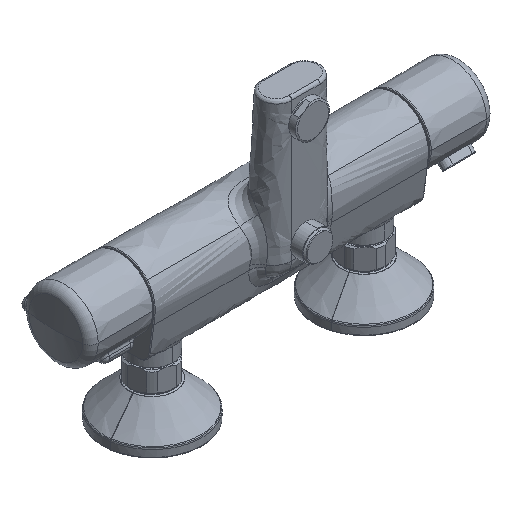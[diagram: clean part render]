
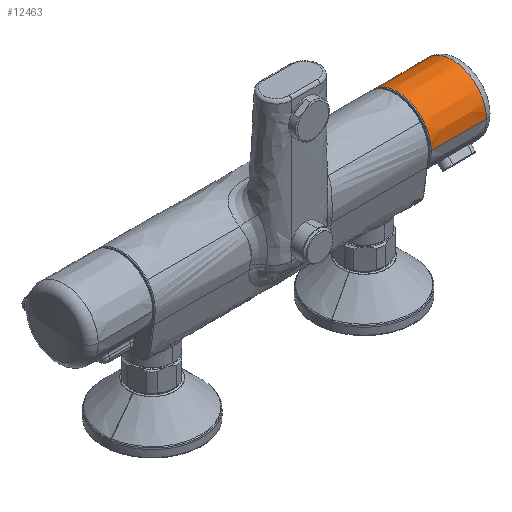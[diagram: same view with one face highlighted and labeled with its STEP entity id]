
A CAD part, isometric view. The second image highlights one B-rep face of the part: STEP entity #12463.
In plain terms, the highlighted conical face has half-angle 0.25 degrees and reference radius 24.194 mm.
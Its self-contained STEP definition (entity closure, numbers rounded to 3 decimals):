
#288 = CARTESIAN_POINT ( 'NONE',  ( 137.558, -24.172, 58.5 ) ) ;
#400 = CARTESIAN_POINT ( 'NONE',  ( 132.951, 23.428, 64.369 ) ) ;
#932 = ORIENTED_EDGE ( 'NONE', *, *, #12883, .T. ) ;
#934 = CARTESIAN_POINT ( 'NONE',  ( 119.974, 23.626, 63.23 ) ) ;
#1434 = ORIENTED_EDGE ( 'NONE', *, *, #12323, .T. ) ;
#1801 = CARTESIAN_POINT ( 'NONE',  ( 142.652, 0., 58.5 ) ) ;
#2099 = CARTESIAN_POINT ( 'NONE',  ( 98.721, -24.002, 58.5 ) ) ;
#2236 = CARTESIAN_POINT ( 'NONE',  ( 118.319, 23.899, 61.526 ) ) ;
#2844 = VERTEX_POINT ( 'NONE', #288 ) ;
#2987 = AXIS2_PLACEMENT_3D ( 'NONE', #1801, #5536, #8028 ) ;
#3282 = EDGE_CURVE ( 'NONE', #12941, #7825, #7393, .T. ) ;
#3455 = CARTESIAN_POINT ( 'NONE',  ( 119.5, 23.694, 62.866 ) ) ;
#3512 = CARTESIAN_POINT ( 'NONE',  ( 117.791, 24.008, 60.46 ) ) ;
#3560 = CARTESIAN_POINT ( 'NONE',  ( 123.736, 23.383, 64.382 ) ) ;
#3583 = FACE_OUTER_BOUND ( 'NONE', #14435, .T. ) ;
#3790 = DIRECTION ( 'NONE',  ( 0., -1., 0. ) ) ;
#4009 = EDGE_CURVE ( 'NONE', #14165, #2844, #13096, .T. ) ;
#4844 = CARTESIAN_POINT ( 'NONE',  ( 121.759, 23.443, 64.102 ) ) ;
#5014 = CARTESIAN_POINT ( 'NONE',  ( 137.558, 23.45, 64.362 ) ) ;
#5536 = DIRECTION ( 'NONE',  ( 1., 0., 0. ) ) ;
#5984 = CARTESIAN_POINT ( 'NONE',  ( 120.653, 23.542, 63.651 ) ) ;
#6092 = CARTESIAN_POINT ( 'NONE',  ( 117.452, 24.084, 58.5 ) ) ;
#6643 = ORIENTED_EDGE ( 'NONE', *, *, #10184, .T. ) ;
#6647 = B_SPLINE_CURVE_WITH_KNOTS ( 'NONE', 3,
 ( #6747, #400, #13171, #12995 ),
 .UNSPECIFIED., .F., .F.,
 ( 4, 4 ),
 ( 0., 0.014 ),
 .UNSPECIFIED. ) ;
#6686 = AXIS2_PLACEMENT_3D ( 'NONE', #8828, #11481, #3790 ) ;
#6706 = ORIENTED_EDGE ( 'NONE', *, *, #3282, .F. ) ;
#6722 = CARTESIAN_POINT ( 'NONE',  ( 98.721, 24.002, 58.5 ) ) ;
#6747 = CARTESIAN_POINT ( 'NONE',  ( 137.558, 23.45, 64.362 ) ) ;
#7097 = DIRECTION ( 'NONE',  ( 1., -0.004, 0. ) ) ;
#7145 = CARTESIAN_POINT ( 'NONE',  ( 123.333, 23.381, 64.383 ) ) ;
#7252 = CARTESIAN_POINT ( 'NONE',  ( 118.793, 23.81, 62.172 ) ) ;
#7393 = LINE ( 'NONE', #7478, #12698 ) ;
#7392 = CARTESIAN_POINT ( 'NONE',  ( 137.558, 0., 58.5 ) ) ;
#7478 = CARTESIAN_POINT ( 'NONE',  ( 142.652, 24.194, 58.5 ) ) ;
#7825 = VERTEX_POINT ( 'NONE', #8696 ) ;
#7884 = ORIENTED_EDGE ( 'NONE', *, *, #4009, .T. ) ;
#8028 = DIRECTION ( 'NONE',  ( 0., 1., 0. ) ) ;
#8457 = CARTESIAN_POINT ( 'NONE',  ( 121.011, 23.505, 63.823 ) ) ;
#8574 = CARTESIAN_POINT ( 'NONE',  ( 117.495, 24.074, 59.295 ) ) ;
#8696 = CARTESIAN_POINT ( 'NONE',  ( 117.452, 24.084, 58.5 ) ) ;
#8828 = CARTESIAN_POINT ( 'NONE',  ( 98.721, 0., 58.5 ) ) ;
#8935 = B_SPLINE_CURVE_WITH_KNOTS ( 'NONE', 3,
 ( #3560, #7145, #13488, #15986, #4844, #8457, #5984, #15931, #934, #9719, #3455, #14794, #7252, #2236, #13595, #3512, #16097, #8574, #13657, #6092 ),
 .UNSPECIFIED., .F., .F.,
 ( 4, 2, 2, 2, 2, 2, 2, 2, 2, 4 ),
 ( 0., 0.001, 0.002, 0.004, 0.004, 0.005, 0.006, 0.007, 0.008, 0.01 ),
 .UNSPECIFIED. ) ;
#9080 = CONICAL_SURFACE ( 'NONE', #2987, 24.194, 0.004 ) ;
#9719 = CARTESIAN_POINT ( 'NONE',  ( 119.654, 23.671, 62.992 ) ) ;
#10048 = CIRCLE ( 'NONE', #6686, 24.002 ) ;
#10184 = EDGE_CURVE ( 'NONE', #2844, #10627, #16164, .T. ) ;
#10516 = VECTOR ( 'NONE', #7097, 1000. ) ;
#10627 = VERTEX_POINT ( 'NONE', #5014 ) ;
#11204 = DIRECTION ( 'NONE',  ( 1., 0.004, 0. ) ) ;
#11246 = ORIENTED_EDGE ( 'NONE', *, *, #14788, .T. ) ;
#11481 = DIRECTION ( 'NONE',  ( 1., 0., 0. ) ) ;
#12323 = EDGE_CURVE ( 'NONE', #12941, #14165, #10048, .T. ) ;
#12463 = ADVANCED_FACE ( 'NONE', ( #3583 ), #9080, .T. ) ;
#12698 = VECTOR ( 'NONE', #11204, 1000. ) ;
#12883 = EDGE_CURVE ( 'NONE', #10627, #13632, #6647, .T. ) ;
#12941 = VERTEX_POINT ( 'NONE', #6722 ) ;
#12975 = CARTESIAN_POINT ( 'NONE',  ( 123.736, 23.383, 64.382 ) ) ;
#12995 = CARTESIAN_POINT ( 'NONE',  ( 123.736, 23.383, 64.382 ) ) ;
#13096 = LINE ( 'NONE', #13336, #10516 ) ;
#13171 = CARTESIAN_POINT ( 'NONE',  ( 128.344, 23.405, 64.376 ) ) ;
#13336 = CARTESIAN_POINT ( 'NONE',  ( 142.652, -24.194, 58.5 ) ) ;
#13488 = CARTESIAN_POINT ( 'NONE',  ( 122.935, 23.388, 64.348 ) ) ;
#13595 = CARTESIAN_POINT ( 'NONE',  ( 118.119, 23.94, 61.184 ) ) ;
#13617 = DIRECTION ( 'NONE',  ( -1., 0., 0. ) ) ;
#13632 = VERTEX_POINT ( 'NONE', #12975 ) ;
#13657 = CARTESIAN_POINT ( 'NONE',  ( 117.452, 24.084, 58.9 ) ) ;
#14165 = VERTEX_POINT ( 'NONE', #2099 ) ;
#14435 = EDGE_LOOP ( 'NONE', ( #1434, #7884, #6643, #932, #11246, #6706 ) ) ;
#14788 = EDGE_CURVE ( 'NONE', #13632, #7825, #8935, .T. ) ;
#14794 = CARTESIAN_POINT ( 'NONE',  ( 119.06, 23.764, 62.467 ) ) ;
#15688 = AXIS2_PLACEMENT_3D ( 'NONE', #7392, #13617, #16012 ) ;
#15931 = CARTESIAN_POINT ( 'NONE',  ( 120.141, 23.604, 63.342 ) ) ;
#15986 = CARTESIAN_POINT ( 'NONE',  ( 122.15, 23.419, 64.208 ) ) ;
#16012 = DIRECTION ( 'NONE',  ( 0., -1., 0. ) ) ;
#16097 = CARTESIAN_POINT ( 'NONE',  ( 117.663, 24.036, 60.075 ) ) ;
#16164 = CIRCLE ( 'NONE', #15688, 24.172 ) ;
